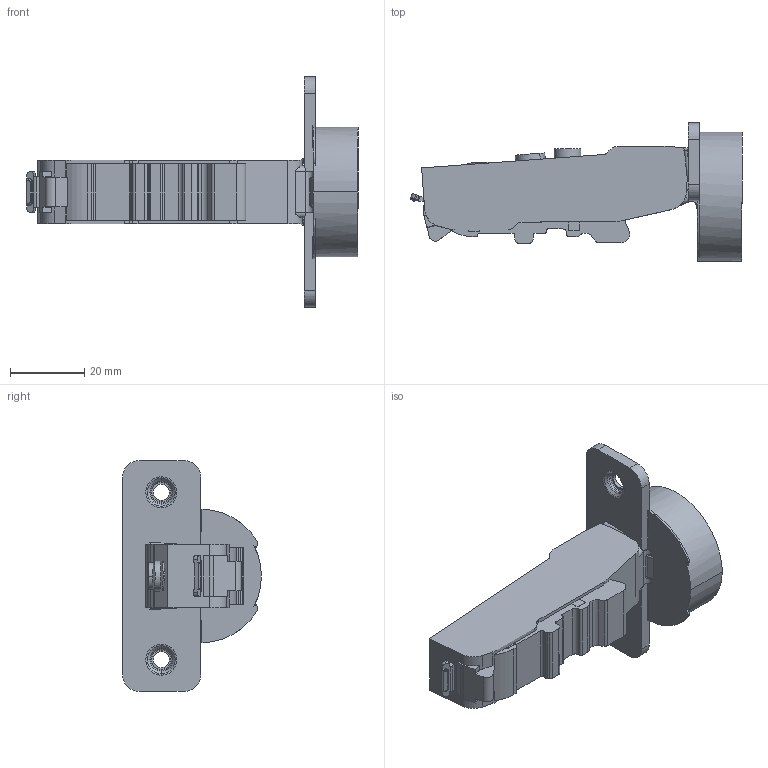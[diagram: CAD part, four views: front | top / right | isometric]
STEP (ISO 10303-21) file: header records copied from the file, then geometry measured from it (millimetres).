
FILE_DESCRIPTION (( 'STEP AP203' ), '1' );
FILE_NAME ('C81B815FAB DTC 3D CLOSE.STEP', '2024-07-25T07:27:55', ( '微软用户' ), ( '微软中国' ), 'SwSTEP 2.0', 'SolidWorks 2021', '' );
FILE_SCHEMA (( 'CONFIG_CONTROL_DESIGN' ));
Length unit declared in the file: millimetre
Products named in the file (1): C81B815FAB DTC 3D CLOSE
Bounding box: 89.24 x 37.3 x 62 mm (x, y, z)
Volume: 38581.8 mm3; surface area: 11356.3 mm2
Topology: 1 solids, 2 shells, 352 faces, 1020 edges, 671 vertices
Faces by surface type: plane 145, cylinder 137, torus 36, bspline 22, cone 12
Entity records: 12914 total; most frequent: CARTESIAN_POINT 3633, ORIENTED_EDGE 2040, DIRECTION 1842, EDGE_CURVE 1020, VERTEX_POINT 671, AXIS2_PLACEMENT_3D 655, VECTOR 532, LINE 532
